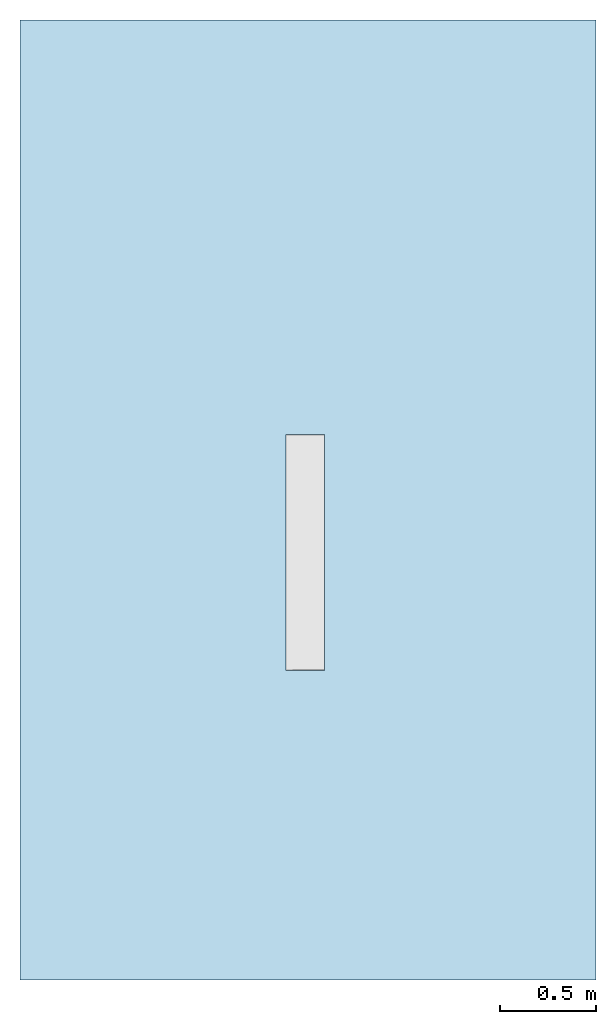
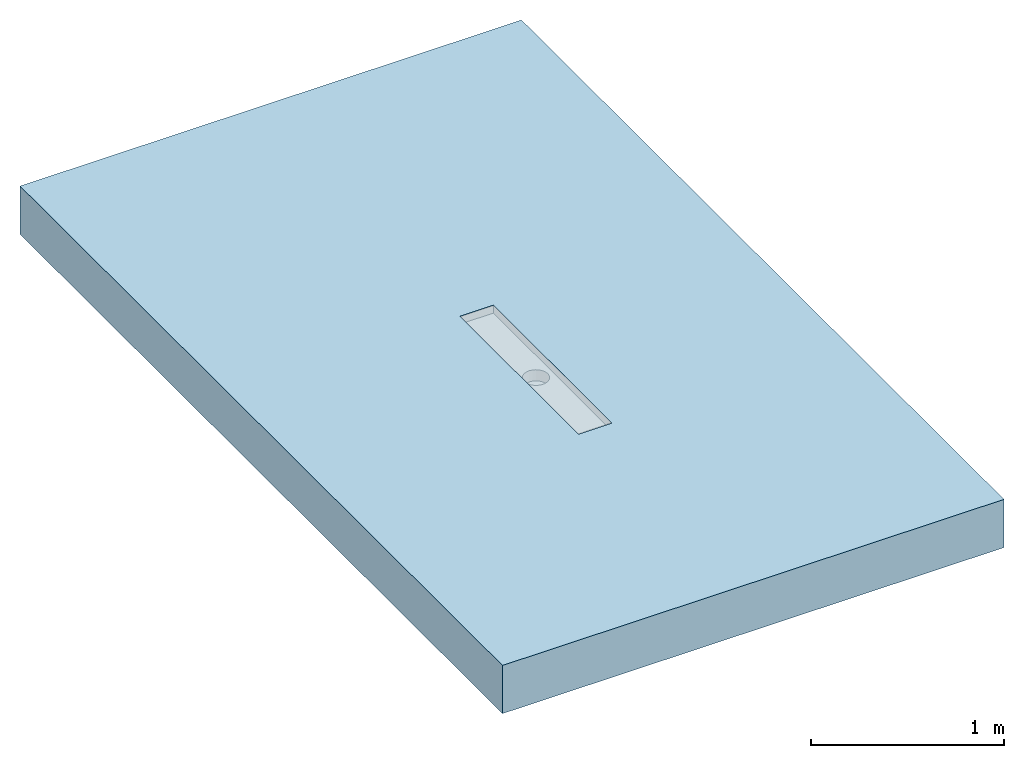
# One storey, incomplete: 1 slab, 1 opening.
"""IFC2X3 building model written with IfcOpenShell, lengths in millimetres."""

from ifc_helpers import new_model, entity, si_unit, converted_unit, derived_unit, direction, frame, frame_2d, origin, place, context, subcontext, project, spatial, rectangle, extrude, faceted_brep, material, layer, layer_set, layer_usage, element, save


model = new_model("IFC2X3")

# Units and contexts
model_context = context("Model", 3, precision=1e-05, world=origin(), true_north=direction((2.0, 6.12303176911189e-17, 1.0)))
context_of_model = context(None, 3, precision=1e-05, world=origin(), true_north=direction((2.0, 6.12303176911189e-17, 1.0)))
body_context = subcontext(model_context, "Body", "Model", "MODEL_VIEW")
ifc_project = project(units=[si_unit("LENGTHUNIT", "METRE", prefix="MILLI"), converted_unit("AREAUNIT", "SQUARE FOOT", entity("IfcRatioMeasure", 0.09290304), si_unit("AREAUNIT", "SQUARE_METRE"), dimensions=[2, 0, 0, 0, 0, 0, 0]), converted_unit("VOLUMEUNIT", "CUBIC FOOT", entity("IfcRatioMeasure", 0.028316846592), si_unit("VOLUMEUNIT", "CUBIC_METRE"), dimensions=[3, 0, 0, 0, 0, 0, 0]), converted_unit("PLANEANGLEUNIT", "DEGREE", entity("IfcRatioMeasure", 0.0174532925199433), si_unit("PLANEANGLEUNIT", "RADIAN"), dimensions=[0, 0, 0, 0, 0, 0, 0]), si_unit("MASSUNIT", "GRAM", prefix="KILO"), si_unit("TIMEUNIT", "SECOND"), si_unit("THERMODYNAMICTEMPERATUREUNIT", "KELVIN"), derived_unit("THERMALTRANSMITTANCEUNIT", [(si_unit("MASSUNIT", "GRAM", prefix="KILO"), 1), (si_unit("THERMODYNAMICTEMPERATUREUNIT", "KELVIN"), -1), (si_unit("TIMEUNIT", "SECOND"), -3)]), derived_unit("VOLUMETRICFLOWRATEUNIT", [(si_unit("LENGTHUNIT", "METRE"), 3), (si_unit("TIMEUNIT", "SECOND"), -1)]), si_unit("POWERUNIT", "WATT")], contexts=[model_context, context_of_model])

# Site, building, storey
site_placement = place(None, origin())
site = spatial("IfcSite", under=ifc_project, at=site_placement, Name="Default", CompositionType="ELEMENT")
building_placement = place(site_placement, origin())
building = spatial("IfcBuilding", under=site, at=building_placement, CompositionType="ELEMENT")
storey_placement = place(building_placement, origin())
storey = spatial("IfcBuildingStorey", under=building, at=storey_placement, Name="Level 1", CompositionType="ELEMENT", Elevation=0.0)

# Slab, opening
ifc_material = material(Name="Default Floor")
ifc_layer = layer(ifc_material, 304.8)
ifc_layer_set = layer_set([ifc_layer], Name="Floor:Generic - 12\"")
ifc_layer_usage = layer_usage(ifc_layer_set, "AXIS3", "POSITIVE", 0.0)
slab_placement = place(storey_placement, frame((-2592.42688678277, 381.838531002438, -304.8)))
slab = element("IfcSlab", 1, at=slab_placement, inside=storey, material=ifc_layer_usage, Name="Floor:Generic - 12\"", ObjectType="Floor:Generic - 12\"", PredefinedType="FLOOR", context=body_context, shape_type="SweptSolid", body=[
    extrude(rectangle(XDim=5000.0, YDim=3000.0, at=frame_2d((0.0, 0.0), x_axis=(0.0, -1.0))), frame((1500.0, 2500.0, 304.8), z_axis=(0.0, 0.0, -1.0), x_axis=(-1.0, 0.0, 0.0)), (0.0, 0.0, 1.0), 304.8),
])
opening_placement = place(slab_placement, frame((1385.7358058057, 1612.01654240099, 184.151793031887)))
element("IfcOpeningElement", 2, at=opening_placement, cuts=slab, ObjectType="Recess", context=body_context, shape_type="Brep", body=[
    faceted_brep([(200.0, 0.0, 70.6482069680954), (200.0, 0.0, 120.648206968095), (0.0, 0.0, 70.648206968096), (0.0, 0.0, 120.648206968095), (0.0, 1230.0, 70.648206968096), (0.0, 1230.0, 120.648206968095), (200.0, 1230.0, 120.648206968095), (200.0, 1230.0, 70.6482069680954), (64.4999999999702, 553.512196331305, 70.6482069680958), (81.6238477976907, 546.419266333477, 70.6482069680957), (49.7954185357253, 564.795418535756, 70.6482069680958), (100.0, 544.0, 70.6482069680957), (29.0, 615.0, 70.6482069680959), (31.4192663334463, 596.623847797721, 70.6482069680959), (38.5121963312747, 579.5, 70.6482069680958), (118.376152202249, 546.419266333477, 70.6482069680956), (135.49999999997, 553.512196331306, 70.6482069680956), (150.204581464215, 564.795418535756, 70.6482069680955), (161.487803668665, 579.500000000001, 70.6482069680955), (168.580733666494, 596.623847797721, 70.6482069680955), (171.0, 615.0, 70.6482069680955), (38.5121963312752, 650.500000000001, 70.6482069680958), (31.4192663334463, 633.37615220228, 70.6482069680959), (49.7954185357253, 665.204581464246, 70.6482069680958), (64.4999999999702, 676.487803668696, 70.6482069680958), (81.6238477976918, 683.580733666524, 70.6482069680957), (100.0, 686.0, 70.6482069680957), (168.580733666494, 633.376152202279, 70.6482069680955), (161.487803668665, 650.5, 70.6482069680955), (135.49999999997, 676.487803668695, 70.6482069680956), (118.376152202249, 683.580733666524, 70.6482069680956), (150.204581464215, 665.204581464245, 70.6482069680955), (49.7954185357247, 564.795418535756, 0.0), (100.0, 544.0, 0.0), (81.6238477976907, 546.419266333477, 0.0), (64.4999999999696, 553.512196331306, 0.0), (38.5121963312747, 650.5, 0.0), (38.5121963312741, 579.500000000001, 0.0), (64.4999999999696, 676.487803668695, 0.0), (150.204581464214, 564.795418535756, 0.0), (118.376152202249, 683.580733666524, 0.0), (135.499999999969, 553.512196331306, 0.0), (118.376152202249, 546.419266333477, 0.0), (161.487803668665, 579.500000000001, 0.0), (168.580733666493, 633.376152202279, 0.0), (168.580733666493, 596.623847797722, 0.0), (171.0, 615.0, 0.0), (31.4192663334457, 596.623847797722, 0.0), (31.4192663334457, 633.37615220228, 0.0), (49.7954185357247, 665.204581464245, 0.0), (81.6238477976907, 683.580733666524, 0.0), (150.204581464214, 665.204581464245, 0.0), (161.487803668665, 650.5, 0.0), (135.49999999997, 676.487803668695, 0.0), (100.0, 686.0, 0.0), (29.0, 615.0, 0.0)], [[[0, 1, 2]], [[3, 2, 1]], [[4, 5, 6]], [[6, 7, 4]], [[3, 1, 6]], [[6, 5, 3]], [[2, 3, 4]], [[5, 4, 3]], [[1, 0, 7]], [[7, 6, 1]], [[2, 8, 9]], [[8, 2, 10]], [[2, 9, 11]], [[12, 13, 2]], [[14, 10, 2]], [[13, 14, 2]], [[2, 4, 12]], [[0, 11, 15]], [[11, 0, 2]], [[0, 15, 16]], [[16, 17, 0]], [[18, 19, 0]], [[17, 18, 0]], [[0, 19, 20]], [[21, 22, 4]], [[23, 21, 4]], [[24, 4, 25]], [[4, 24, 23]], [[26, 25, 4]], [[4, 7, 26]], [[22, 12, 4]], [[27, 28, 7]], [[20, 27, 7]], [[29, 30, 7]], [[31, 7, 28]], [[7, 31, 29]], [[30, 26, 7]], [[20, 7, 0]], [[32, 33, 34]], [[32, 34, 35]], [[36, 32, 37]], [[33, 32, 38]], [[39, 33, 40]], [[33, 41, 42]], [[33, 39, 41]], [[43, 44, 45]], [[46, 45, 44]], [[44, 43, 39]], [[37, 47, 36]], [[48, 36, 47]], [[36, 49, 32]], [[33, 38, 40]], [[32, 49, 38]], [[40, 38, 50]], [[44, 51, 52]], [[44, 39, 51]], [[53, 51, 39]], [[40, 53, 39]], [[50, 54, 40]], [[48, 47, 55]], [[28, 52, 51]], [[29, 53, 40]], [[51, 53, 31]], [[30, 40, 54]], [[20, 44, 27]], [[44, 20, 46]], [[27, 44, 28]], [[44, 52, 28]], [[51, 31, 28]], [[29, 31, 53]], [[40, 30, 29]], [[54, 26, 30]], [[25, 50, 38]], [[49, 24, 38]], [[21, 36, 48]], [[49, 36, 23]], [[22, 48, 55]], [[50, 25, 26]], [[38, 24, 25]], [[49, 23, 24]], [[36, 21, 23]], [[22, 21, 48]], [[55, 12, 22]], [[50, 26, 54]], [[47, 13, 55]], [[37, 14, 47]], [[34, 33, 9]], [[32, 10, 37]], [[47, 14, 13]], [[13, 12, 55]], [[8, 35, 9]], [[8, 10, 32]], [[35, 34, 9]], [[10, 14, 37]], [[32, 35, 8]], [[33, 11, 9]], [[15, 42, 41]], [[39, 16, 41]], [[18, 43, 45]], [[39, 43, 17]], [[19, 45, 46]], [[42, 15, 11]], [[41, 16, 15]], [[39, 17, 16]], [[43, 18, 17]], [[19, 18, 45]], [[46, 20, 19]], [[42, 11, 33]]]),
])

save(model, "model.ifc")
